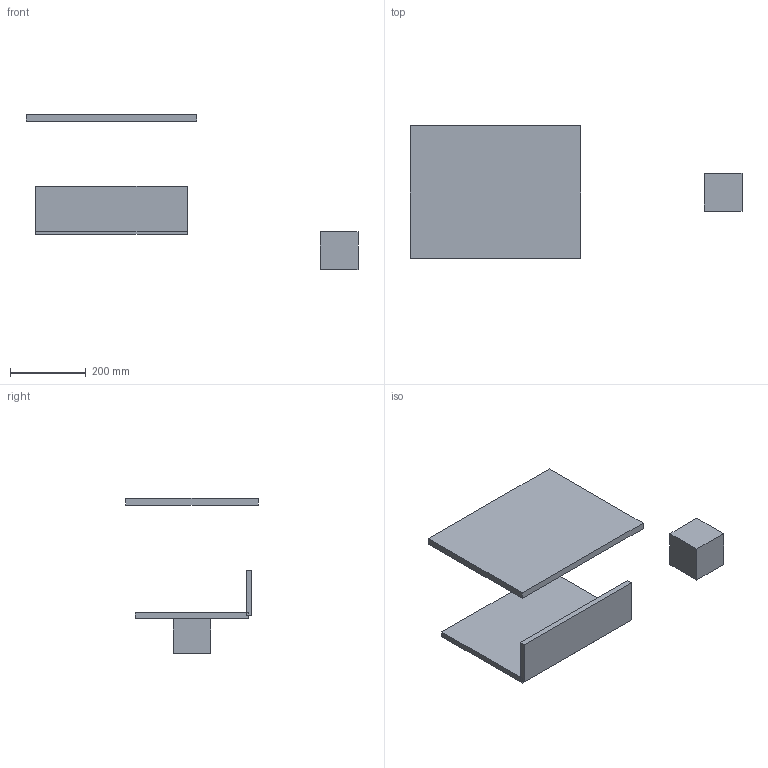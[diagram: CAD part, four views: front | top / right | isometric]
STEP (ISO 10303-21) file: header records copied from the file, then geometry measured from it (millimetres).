
FILE_DESCRIPTION(('Open CASCADE Model'),'2;1');
FILE_NAME('Open CASCADE Shape Model','2026-11-09T07:43:17',('Author'),( 'Open CASCADE'),'Open CASCADE STEP processor 7.9','Open CASCADE 7.9' ,'Unknown');
FILE_SCHEMA(('AUTOMOTIVE_DESIGN { 1 0 10303 214 1 1 1 1 }'));
Length unit declared in the file: millimetre
Products named in the file (7): 家具セット; キャビネット; 天板; 引き出し; 底板; 前板; スツール
Assembly tree (6 placements, depth 4):
  家具セット
    キャビネット
      天板
      引き出し
        底板
        前板
    スツール
Bounding box: 875 x 350 x 409 mm (x, y, z)
Volume: 6355000 mm3; surface area: 776400 mm2
Topology: 4 solids, 4 shells, 24 faces, 48 edges, 32 vertices
Faces by surface type: plane 24
Entity records: 1348 total; most frequent: CARTESIAN_POINT 207, DIRECTION 206, LINE 144, VECTOR 144, ORIENTED_EDGE 96, PCURVE 96, DEFINITIONAL_REPRESENTATION 96, EDGE_CURVE 48
